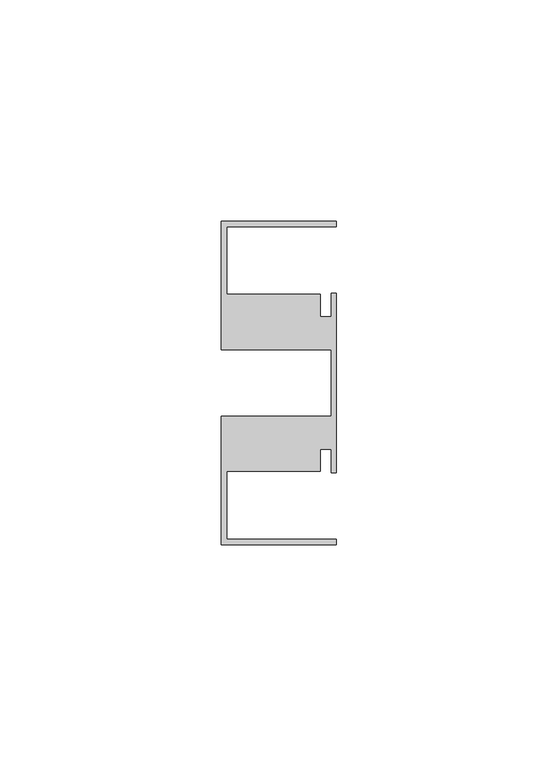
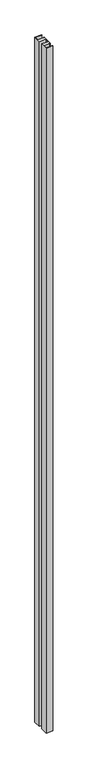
"""IFC4 building model written with IfcOpenShell, lengths in millimetres: member geometry, Прямоугольный импост : 9-AMG-1-Профиль 26Х73 Верх П."""

from ifc_helpers import new_model, si_unit, frame, origin, place, context, project, spatial, polyline, outline, extrude, source, transform, mapped, element, save


def member_24251dc7(model_context):
    return source(origin(), model_context, "Body", "SweptSolid", [
        extrude(outline(polyline([(-26.0, -36.5), (-26.0, -7.5116043), (-1.2, -7.5116043), (-1.2, 7.5116043), (-26.0, 7.5116043), (-26.0, 36.5), (0.0, 36.5), (0.0, 35.3), (-24.8, 35.3), (-24.8, 20.0), (-3.7, 20.0), (-3.7, 14.95), (-1.2, 14.95), (-1.2, 20.3007529), (0.0, 20.3007529), (0.0, -20.3007529), (-1.2, -20.3007529), (-1.2, -14.95), (-3.7, -14.95), (-3.7, -20.0), (-24.8, -20.0), (-24.8, -35.3), (0.0, -35.3), (0.0, -36.5), (-26.0, -36.5)])), frame((0.0, 0.0, -2748.0), z_axis=(0.0, 0.0, 1.0), x_axis=(1.0, 0.0, 0.0)), (0.0, 0.0, 1.0), 2748.0),
    ])


if __name__ == "__main__":
    model = new_model("IFC4")
    model_context = context("Model", 3, world=origin())
    ifc_project = project(units=[si_unit("LENGTHUNIT", "METRE", prefix="MILLI")], contexts=[model_context])
    site = spatial("IfcSite", under=ifc_project)
    building = spatial("IfcBuilding", under=site)
    placement = place(None, origin())
    member_shape = member_24251dc7(model_context)
    element("IfcMember", 1, ObjectType="Прямоугольный импост : 9-AMG-1-Профиль 26Х73 Верх П", at=placement, inside=building, context=model_context, shape_type="MappedRepresentation", body=[
        mapped(member_shape, transform((0.0, 0.0, 0.0), x_axis=(1.0, 0.0, 0.0), y_axis=(0.0, 1.0, 0.0), z_axis=(0.0, 0.0, 1.0))),
    ])
    save(model, "model.ifc")
